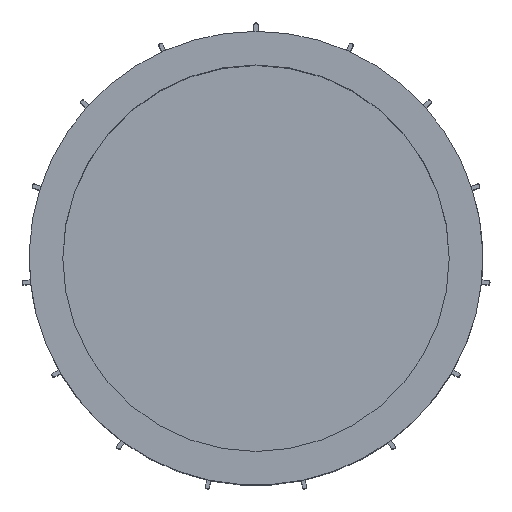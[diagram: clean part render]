
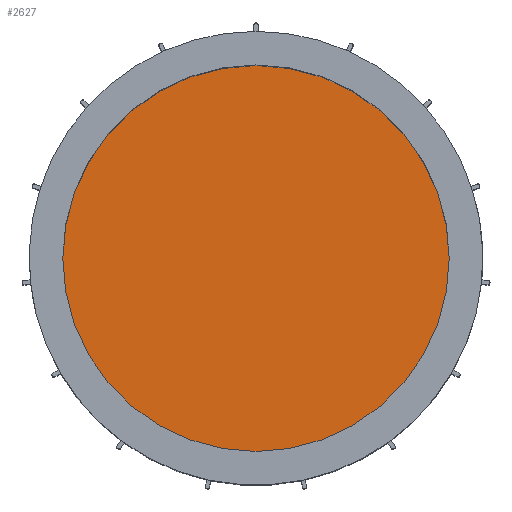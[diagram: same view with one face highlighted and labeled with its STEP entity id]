
A CAD part, top view. The second image highlights one B-rep face of the part: STEP entity #2627.
In plain terms, the highlighted planar face has unit normal (0, 0, 1).
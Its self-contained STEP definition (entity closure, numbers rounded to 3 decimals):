
#123=CIRCLE('',#2897,46.);
#324=FACE_OUTER_BOUND('',#480,.T.);
#480=EDGE_LOOP('',(#2297));
#1267=VERTEX_POINT('',#4402);
#1616=EDGE_CURVE('',#1267,#1267,#123,.T.);
#2297=ORIENTED_EDGE('',*,*,#1616,.F.);
#2489=PLANE('',#2896);
#2627=ADVANCED_FACE('',(#324),#2489,.T.);
#2896=AXIS2_PLACEMENT_3D('',#4401,#3615,#3616);
#2897=AXIS2_PLACEMENT_3D('',#4403,#3617,#3618);
#3615=DIRECTION('center_axis',(0.,0.,1.));
#3616=DIRECTION('ref_axis',(1.,0.,0.));
#3617=DIRECTION('center_axis',(0.,0.,-1.));
#3618=DIRECTION('ref_axis',(1.,0.,0.));
#4401=CARTESIAN_POINT('Origin',(0.,0.,-77.));
#4402=CARTESIAN_POINT('',(-46.,0.,-77.));
#4403=CARTESIAN_POINT('Origin',(0.,0.,-77.));
